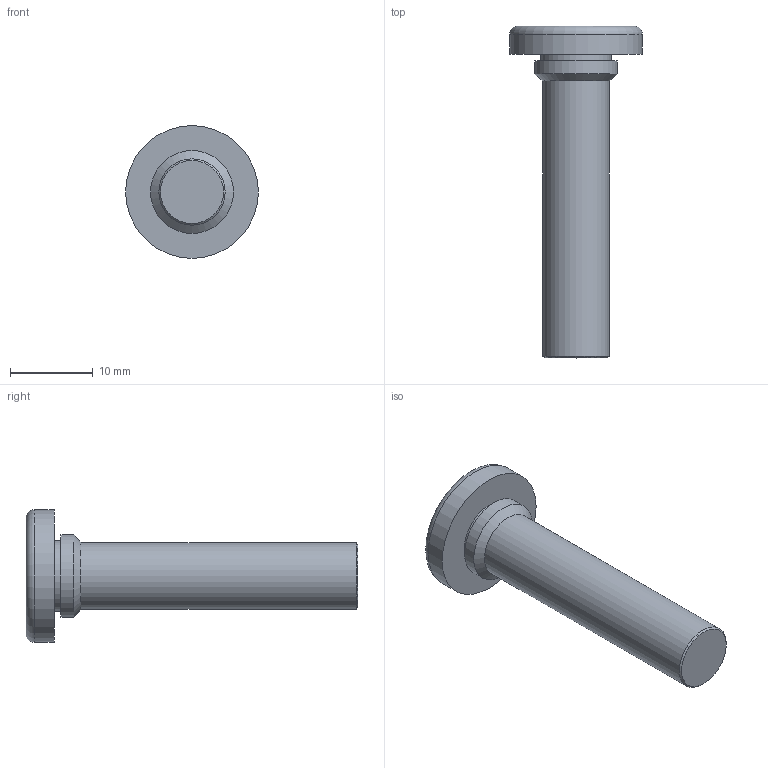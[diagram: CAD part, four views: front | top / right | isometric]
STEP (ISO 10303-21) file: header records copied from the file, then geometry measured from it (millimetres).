
FILE_DESCRIPTION(/* description */ (''),/* implementation_level */ '2;1');
FILE_NAME(/* name */ 'C:\Users\keval.kumar\Desktop\Fastit\Press Screw\M8\Press Screw_M8 x40.stp',/* time_stamp */ '2024-03-13T14:09:05+06:00',/* author */ ('keval.kumar'),/* organization */ (''),/* preprocessor_version */ 'ST-DEVELOPER v18.1',/* originating_system */ 'Autodesk Inventor 2022',/* authorisation */ '');
FILE_SCHEMA (('AUTOMOTIVE_DESIGN { 1 0 10303 214 3 1 1 }'));
Length unit declared in the file: millimetre
Products named in the file (1): Press Screw_M8 x40
Bounding box: 16 x 40 x 16 mm (x, y, z)
Volume: 2573.1 mm3; surface area: 1510.1 mm2
Topology: 1 solids, 1 shells, 11 faces, 19 edges, 12 vertices
Faces by surface type: cylinder 4, plane 4, cone 2, torus 1
Full cylindrical faces by diameter (mm): 8 x1, 8.5 x1, 10 x1, 16 x1
Entity records: 313 total; most frequent: DIRECTION 56, CARTESIAN_POINT 43, ORIENTED_EDGE 38, AXIS2_PLACEMENT_3D 25, EDGE_CURVE 19, EDGE_LOOP 13, CIRCLE 13, VERTEX_POINT 12
